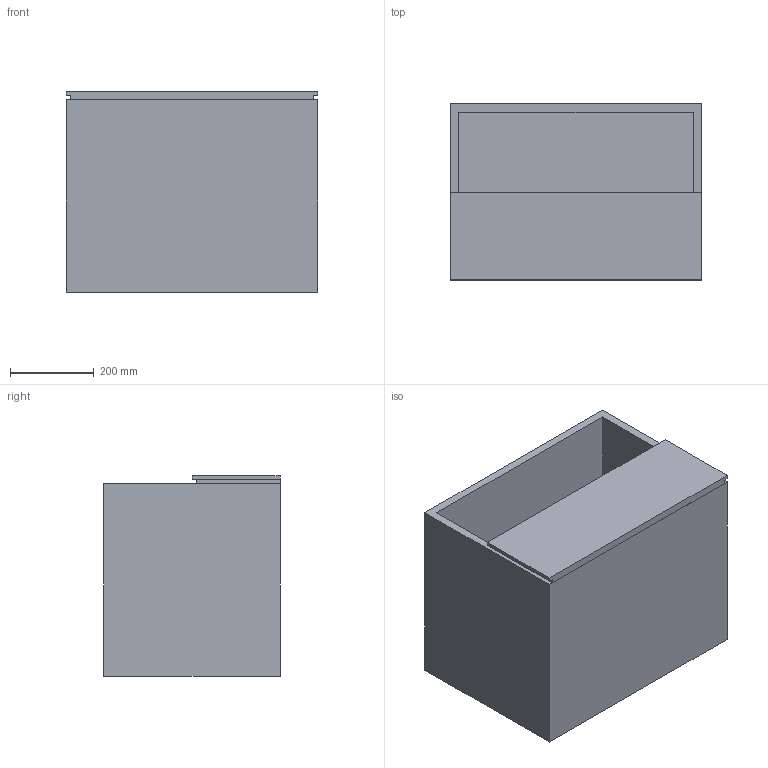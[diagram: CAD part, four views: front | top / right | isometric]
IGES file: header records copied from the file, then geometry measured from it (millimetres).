
Start section: SolidWorks IGES file using NURBS representation for surfaces
Global section: file name: G:\VICCARBE\PRODUCTOS\20-DO IT\04-MODELADOS (PLANOS)\SOLIDWORKS\Contenedores\IGES\VICCARBE_DO24.IGS; native system: SolidWorks 2009; preprocessor: SolidWorks 2009; author: RUBEN; date: 111102.121059; units: millimetre
Bounding box: 600 x 420 x 479 mm (x, y, z)
Surface area: 3073342 mm2 (no closed solid volume)
Topology: 0 solids, 0 shells, 27 faces, 120 edges, 120 vertices
Faces by surface type: bspline 27
